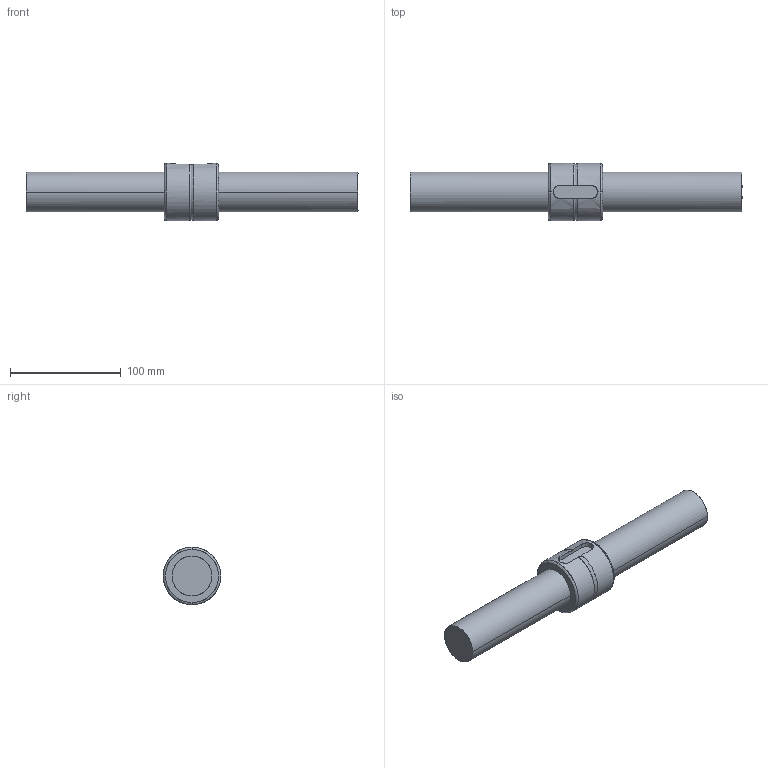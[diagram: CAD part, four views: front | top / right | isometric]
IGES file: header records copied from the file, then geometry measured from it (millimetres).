
Global section: file name: No Iges File Name specified; native system: AutoDesk Inventor R10; preprocessor: AutoDesk Inventor Iges Exporter R10; author: No Author specified; organization: No Organization specified; date: 20101224.155835; units: millimetre
Bounding box: 300 x 52 x 52 mm (x, y, z)
Surface area: 51899.7 mm2 (no closed solid volume)
Topology: 0 solids, 0 shells, 25 faces, 226 edges, 226 vertices
Faces by surface type: bspline 25
